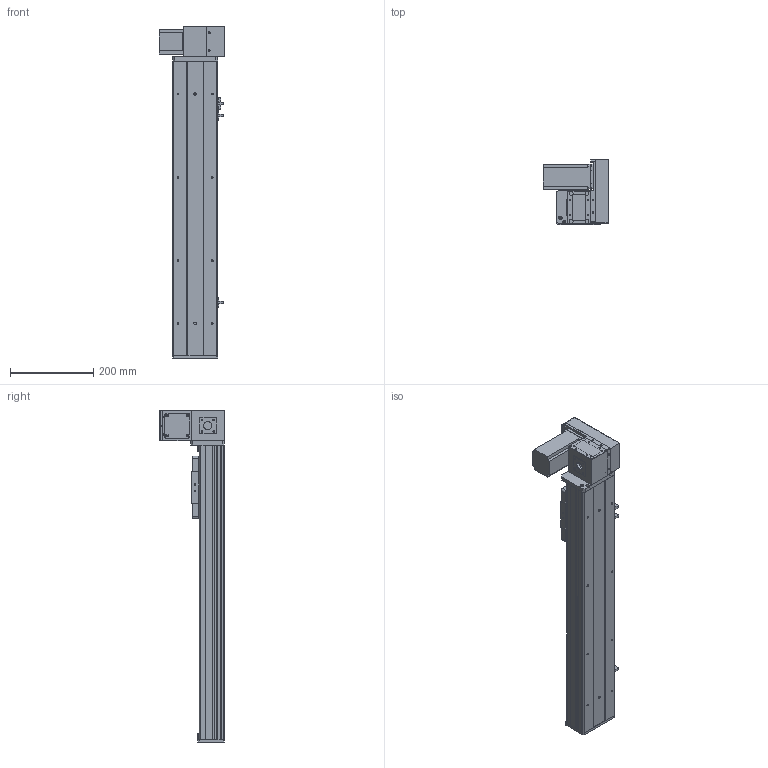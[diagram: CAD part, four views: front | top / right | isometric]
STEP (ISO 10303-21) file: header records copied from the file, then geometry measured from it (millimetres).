
FILE_DESCRIPTION (( 'STEP AP203' ), '1' );
FILE_NAME ('Y10CB-D90-S450-UR-P400W.STEP', '2020-02-16T03:06:18', ( '微软用户' ), ( '微软中国' ), 'SwSTEP 2.0', 'SolidWorks 2017', '' );
FILE_SCHEMA (( 'CONFIG_CONTROL_DESIGN' ));
Length unit declared in the file: millimetre
Products named in the file (18): 10CB-耜裔; 0B-萇儂楊擘啣; Y135C-陔俋离換覜結え-; san松下电机400不带刹车----; Y100-135俋离換覜ん--; 0B-源倛裔啣; Y10B--々湍喘謫眊--666; 0B-埴倛裔啣; Y10B-耜蚾蟀諉啣----; 10CB-詩湍-; 00B-俋欶BM--; Y10CB- 掛极耜裔啣-毀---; 0CB-雄赽釱---; Y10CB-D90-S450-UR-P400W; Y10C---詩湍揤啣; 0Cb-俋欶---; 10CB9-掛极; Y10B-々湍喘謫眊楊擘啣--
Assembly tree (21 placements, depth 2):
  Y10CB-D90-S450-UR-P400W
    0CB-雄赽釱---
    0Cb-俋欶---
    Y10B-々湍喘謫眊楊擘啣--
    0B-萇儂楊擘啣
    san松下电机400不带刹车----
    0B-源倛裔啣
    0B-埴倛裔啣
    10CB-詩湍-
    Y10CB- 掛极耜裔啣-毀---  x2
    Y10C---詩湍揤啣  x2
    10CB9-掛极
    10CB-耜裔
    Y135C-陔俋离換覜結え-
    Y100-135俋离換覜ん--  x3
    Y10B--々湍喘謫眊--666
    Y10B-耜蚾蟀諉啣----
    00B-俋欶BM--
Bounding box: 157 x 155.5 x 796 mm (x, y, z)
Volume: 2176232.2 mm3; surface area: 927299.4 mm2
Topology: 21 solids, 21 shells, 954 faces, 2523 edges, 1658 vertices
Faces by surface type: plane 471, cylinder 459, cone 24
Entity records: 29412 total; most frequent: CARTESIAN_POINT 5025, DIRECTION 4794, ORIENTED_EDGE 4516, EDGE_CURVE 2258, AXIS2_PLACEMENT_3D 1717, VERTEX_POINT 1484, LINE 1360, VECTOR 1360
